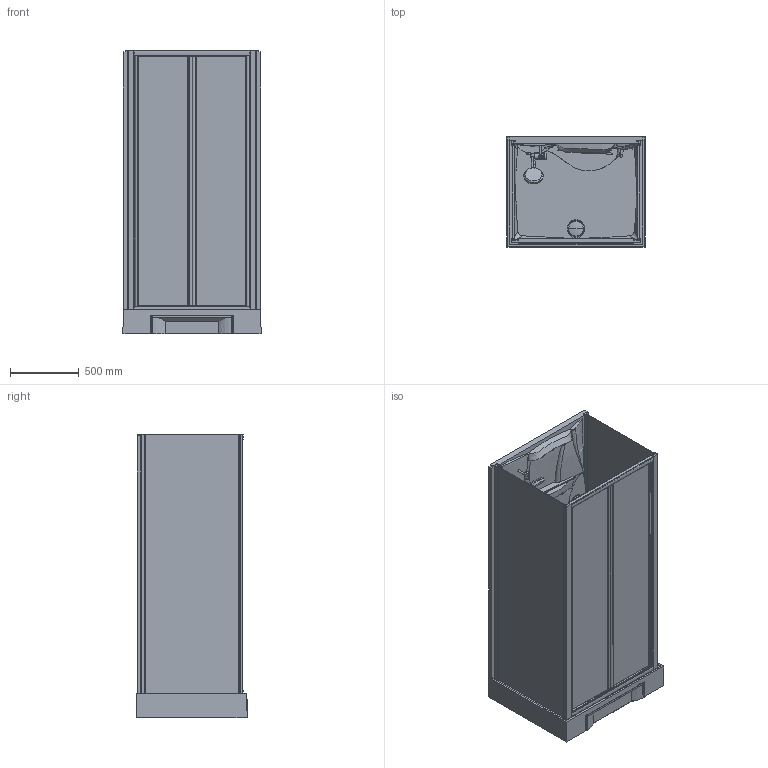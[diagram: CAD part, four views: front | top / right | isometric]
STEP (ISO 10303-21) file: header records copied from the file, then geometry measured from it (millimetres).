
FILE_DESCRIPTION(('STEP AP203'),'2;1');
FILE_NAME('NNH 2F 100 T 19.stp','2015-09-04T14:49:01',(''),(''),'2014.1.117','THINKDESIGN','');
FILE_SCHEMA(('CONFIG_CONTROL_DESIGN'));
Length unit declared in the file: millimetre
Products named in the file (1): top
Bounding box: 1004.04 x 807.53 x 2063.06 mm (x, y, z)
Volume: 176738943 mm3; surface area: 18160723.6 mm2
Topology: 36 solids, 36 shells, 662 faces, 1679 edges, 1102 vertices
Faces by surface type: bspline 308, plane 275, cylinder 79
Entity records: 55907 total; most frequent: CARTESIAN_POINT 42368, ORIENTED_EDGE 3178, DIRECTION 1907, EDGE_CURVE 1589, VERTEX_POINT 1029, VECTOR 735, LINE 735, EDGE_LOOP 668
